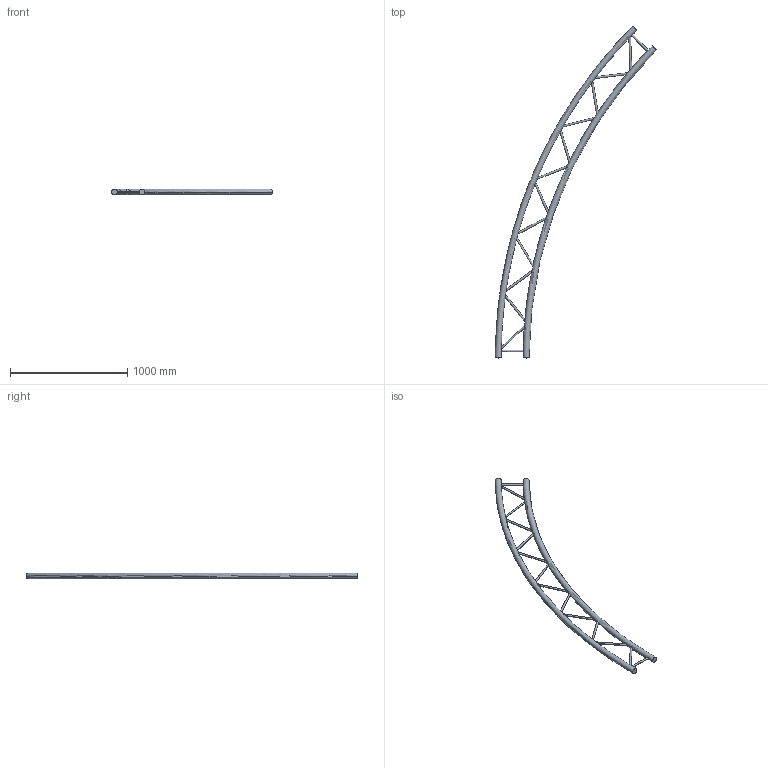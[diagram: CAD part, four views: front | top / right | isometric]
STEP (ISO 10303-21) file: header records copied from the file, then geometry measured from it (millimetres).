
FILE_DESCRIPTION (( 'STEP AP203' ), '1' );
FILE_NAME ('EXC29800H.STEP', '2009-10-26T09:37:16', ( 'CEDIA' ), ( 'CEDIA INDUSTRIE' ), 'SwSTEP 2.0', 'SolidWorks 2009', '' );
FILE_SCHEMA (( 'CONFIG_CONTROL_DESIGN' ));
Length unit declared in the file: millimetre
Products named in the file (1): EXC29800H
Bounding box: 1374.51 x 2828.43 x 50 mm (x, y, z)
Volume: 12617091.9 mm3; surface area: 1132852.8 mm2
Topology: 1 solids, 1 shells, 36 faces, 124 edges, 64 vertices
Faces by surface type: cylinder 28, torus 4, plane 4
Entity records: 3937 total; most frequent: CARTESIAN_POINT 2865, ORIENTED_EDGE 248, DIRECTION 182, EDGE_CURVE 124, AXIS2_PLACEMENT_3D 77, VERTEX_POINT 64, B_SPLINE_CURVE_WITH_KNOTS 56, CIRCLE 40
